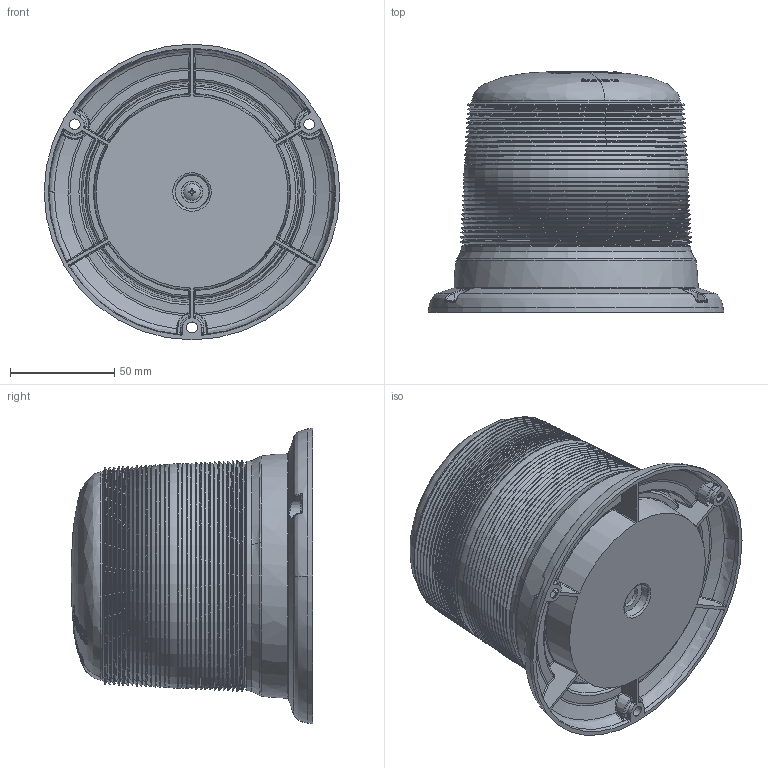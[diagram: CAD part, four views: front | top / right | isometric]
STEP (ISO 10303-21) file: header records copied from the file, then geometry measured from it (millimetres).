
FILE_DESCRIPTION(/* description */ (''),/* implementation_level */ '2;1');
FILE_NAME(/* name */ 'C:/Users/schwa/OneDrive - LED-MARTIN GmbH/eCommerce/Produktdetails/3D_Daten/Cell2/LM4586.step',/* time_stamp */ '2022-06-24T09:48:11+02:00',/* author */ (''),/* organization */ (''),/* preprocessor_version */ 'ST-DEVELOPER v19',/* originating_system */ 'Autodesk Translation Framework v11.7.0.108',/* authorisation */ '');
FILE_SCHEMA (('AUTOMOTIVE_DESIGN { 1 0 10303 214 3 1 1 }'));
Products named in the file (1): (Nicht gespeichert)
Bounding box: 142 x 115.8 x 142 mm (x, y, z)
Volume: 282343.4 mm3; surface area: 214089.4 mm2
Topology: 2 solids, 2 shells, 4144 faces, 11016 edges, 7021 vertices
Faces by surface type: bspline 2669, plane 785, cylinder 360, torus 144, cone 137, sphere 49
Full cylindrical faces by diameter (mm): 0.1 x2, 1.1 x1, 1.8 x3, 3.1 x2, 3.3 x2, 4 x3, 4.1 x2, 4.3 x1, 4.5 x1, 9.3 x1, 30 x1, 102 x1, 109.05 x1, 112.7 x1
Entity records: 392511 total; most frequent: CARTESIAN_POINT 303257, ORIENTED_EDGE 21998, DIRECTION 11233, EDGE_CURVE 10999, VERTEX_POINT 7021, B_SPLINE_CURVE_WITH_KNOTS 5418, EDGE_LOOP 4403, AXIS2_PLACEMENT_3D 4203
